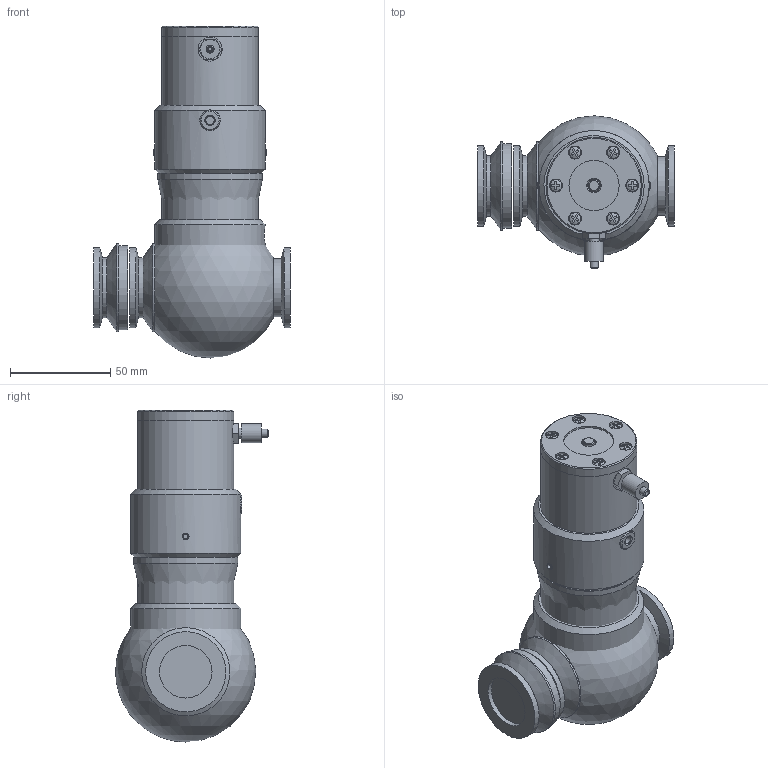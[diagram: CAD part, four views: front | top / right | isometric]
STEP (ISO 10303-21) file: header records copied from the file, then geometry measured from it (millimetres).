
FILE_DESCRIPTION( ( 'Unknown' ), '1' );
FILE_NAME( 'X:/Daten ( aktueller Bestand )/Projekte und Zeichnungen/Solid Edge/21 Eck + Durchgangsventile KF ISO-K, el.pneumatisch/VA/Durchgangsventil/NW25/Internet/313411.stp', 'Unknown', ( 'Unknown' ), ( 'Unknown' ), 'XStep 1.0', 'Unknown', ' ' );
FILE_SCHEMA( ( 'automotive_design' ) );
Length unit declared in the file: millimetre
Products named in the file (13): Assem1; 3034-1; 3034-2; 3034-3; 3034-4; 3104-1; 3102-2; 3102-3; 3102-4; 3102-5; Schraube 3x8; Anschluss Festo; M3x4
Bounding box: 98 x 76.2 x 165.5 mm (x, y, z)
Volume: 492674.4 mm3; surface area: 158838.3 mm2
Topology: 30 solids, 30 shells, 435 faces, 943 edges, 627 vertices
Faces by surface type: plane 235, cylinder 137, cone 52, sphere 11
Full cylindrical faces by diameter (mm): 2 x2, 2.459 x12, 2.8 x2, 3 x10, 3.242 x4, 3.3 x12, 4 x2, 4.134 x4, 5 x4, 5.793 x7, 6 x4, 6.3 x2, 6.5 x12, 9.518 x2, 10 x2, 10.3 x2, 12 x2, 12.5 x2, 12.812 x2, 20 x2, 25 x2, 26 x2, 26.2 x4, 27 x4, 29 x2, 30.003 x2, 33.739 x2, 37.97 x2, 40 x8, 42 x4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
Entity records: 4638 total; most frequent: CARTESIAN_POINT 1071, DIRECTION 718, ORIENTED_EDGE 428, AXIS2_PLACEMENT_3D 329, EDGE_LOOP 311, FACE_OUTER_BOUND 229, EDGE_CURVE 214, VERTEX_POINT 196
